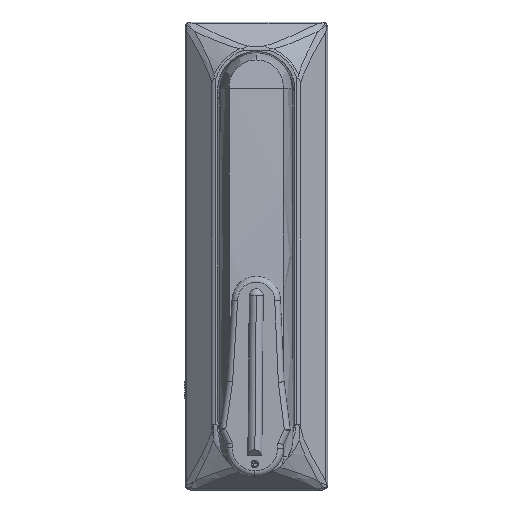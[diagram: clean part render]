
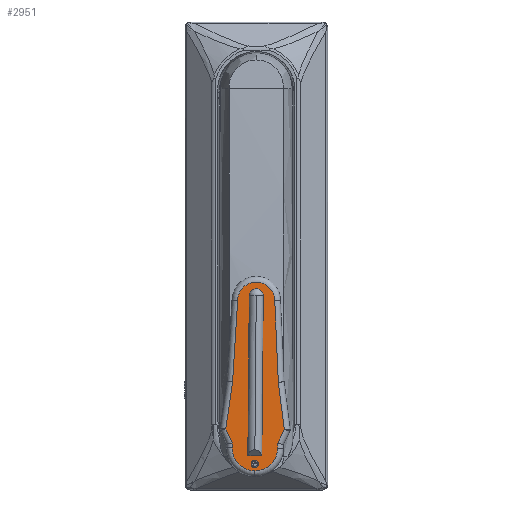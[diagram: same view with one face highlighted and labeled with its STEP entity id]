
A CAD part, left-side view. The second image highlights one B-rep face of the part: STEP entity #2951.
In plain terms, the highlighted planar face has unit normal (-1, 0, 0) as drawn and (0, 0, -1) by its records, which use the part's own axes.
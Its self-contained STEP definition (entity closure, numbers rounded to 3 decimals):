
#2705 = EDGE_CURVE ( 'NONE', #2716, #2717, #15588, .T. ) ;
#2716 = VERTEX_POINT ( 'NONE', #15567 ) ;
#2717 = VERTEX_POINT ( 'NONE', #15580 ) ;
#2725 = EDGE_CURVE ( 'NONE', #2746, #2743, #15624, .T. ) ;
#2729 = VERTEX_POINT ( 'NONE', #15604 ) ;
#2743 = VERTEX_POINT ( 'NONE', #15644 ) ;
#2746 = VERTEX_POINT ( 'NONE', #15653 ) ;
#2785 = VERTEX_POINT ( 'NONE', #15701 ) ;
#2789 = EDGE_CURVE ( 'NONE', #2785, #2729, #15696, .T. ) ;
#2898 = EDGE_LOOP ( 'NONE', ( #2974, #2958, #2962, #2953, #2957, #2942, #2946, #2943, #3012, #2950, #3017 ) ) ;
#2914 = EDGE_CURVE ( 'NONE', #2743, #2945, #15943, .T. ) ;
#2941 = EDGE_CURVE ( 'NONE', #2960, #2746, #16018, .T. ) ;
#2942 = ORIENTED_EDGE ( 'NONE', *, *, #2725, .T. ) ;
#2943 = ORIENTED_EDGE ( 'NONE', *, *, #2947, .T. ) ;
#2944 = VERTEX_POINT ( 'NONE', #16022 ) ;
#2945 = VERTEX_POINT ( 'NONE', #16014 ) ;
#2946 = ORIENTED_EDGE ( 'NONE', *, *, #2914, .T. ) ;
#2947 = EDGE_CURVE ( 'NONE', #2945, #2944, #16019, .T. ) ;
#2948 = EDGE_CURVE ( 'NONE', #2944, #2949, #16023, .T. ) ;
#2949 = VERTEX_POINT ( 'NONE', #16009 ) ;
#2950 = ORIENTED_EDGE ( 'NONE', *, *, #3013, .T. ) ;
#2951 = ADVANCED_FACE ( 'NONE', ( #16021, #16004, #16020 ), #16000, .T. ) ;
#2952 = VERTEX_POINT ( 'NONE', #16013 ) ;
#2953 = ORIENTED_EDGE ( 'NONE', *, *, #3022, .T. ) ;
#2954 = EDGE_CURVE ( 'NONE', #2717, #2716, #15997, .T. ) ;
#2955 = EDGE_CURVE ( 'NONE', #2952, #2975, #16003, .T. ) ;
#2956 = EDGE_CURVE ( 'NONE', #2975, #2983, #16046, .T. ) ;
#2957 = ORIENTED_EDGE ( 'NONE', *, *, #2941, .T. ) ;
#2958 = ORIENTED_EDGE ( 'NONE', *, *, #2956, .T. ) ;
#2959 = EDGE_CURVE ( 'NONE', #2983, #2963, #16039, .T. ) ;
#2960 = VERTEX_POINT ( 'NONE', #16042 ) ;
#2961 = VERTEX_POINT ( 'NONE', #16041 ) ;
#2962 = ORIENTED_EDGE ( 'NONE', *, *, #2959, .T. ) ;
#2963 = VERTEX_POINT ( 'NONE', #16035 ) ;
#2966 = VERTEX_POINT ( 'NONE', #16032 ) ;
#2968 = ORIENTED_EDGE ( 'NONE', *, *, #2954, .F. ) ;
#2970 = VERTEX_POINT ( 'NONE', #16076 ) ;
#2971 = EDGE_CURVE ( 'NONE', #2970, #2966, #16034, .T. ) ;
#2972 = ORIENTED_EDGE ( 'NONE', *, *, #2705, .F. ) ;
#2974 = ORIENTED_EDGE ( 'NONE', *, *, #2955, .T. ) ;
#2975 = VERTEX_POINT ( 'NONE', #16072 ) ;
#2976 = EDGE_LOOP ( 'NONE', ( #2968, #2972 ) ) ;
#2983 = VERTEX_POINT ( 'NONE', #16029 ) ;
#3005 = ORIENTED_EDGE ( 'NONE', *, *, #3020, .T. ) ;
#3011 = EDGE_CURVE ( 'NONE', #2785, #2966, #16140, .T. ) ;
#3012 = ORIENTED_EDGE ( 'NONE', *, *, #2948, .T. ) ;
#3013 = EDGE_CURVE ( 'NONE', #2949, #2961, #16128, .T. ) ;
#3015 = ORIENTED_EDGE ( 'NONE', *, *, #2971, .F. ) ;
#3016 = ORIENTED_EDGE ( 'NONE', *, *, #3011, .T. ) ;
#3017 = ORIENTED_EDGE ( 'NONE', *, *, #3023, .T. ) ;
#3018 = EDGE_LOOP ( 'NONE', ( #3019, #3016, #3015, #3005 ) ) ;
#3019 = ORIENTED_EDGE ( 'NONE', *, *, #2789, .F. ) ;
#3020 = EDGE_CURVE ( 'NONE', #2970, #2729, #16087, .T. ) ;
#3022 = EDGE_CURVE ( 'NONE', #2963, #2960, #16123, .T. ) ;
#3023 = EDGE_CURVE ( 'NONE', #2961, #2952, #16119, .T. ) ;
#15541 = DIRECTION ( 'NONE',  ( 0., 0., -1. ) ) ;
#15567 = CARTESIAN_POINT ( 'NONE',  ( -59.297, 0., -2.4 ) ) ;
#15580 = CARTESIAN_POINT ( 'NONE',  ( -56.703, 0., -2.4 ) ) ;
#15581 = DIRECTION ( 'NONE',  ( -1., 0., 0. ) ) ;
#15588 = CIRCLE ( 'NONE', #15591, 1.297 ) ;
#15590 = CARTESIAN_POINT ( 'NONE',  ( -58., 0., -2.4 ) ) ;
#15591 = AXIS2_PLACEMENT_3D ( 'NONE', #15590, #15541, #15581 ) ;
#15604 = CARTESIAN_POINT ( 'NONE',  ( -55., -2.449, -2.4 ) ) ;
#15606 = DIRECTION ( 'NONE',  ( -1., 0., 0. ) ) ;
#15607 = DIRECTION ( 'NONE',  ( 0., 0., -1. ) ) ;
#15608 = CARTESIAN_POINT ( 'NONE',  ( -52.37, 0., -2.4 ) ) ;
#15609 = AXIS2_PLACEMENT_3D ( 'NONE', #15608, #15607, #15606 ) ;
#15624 = CIRCLE ( 'NONE', #15609, 8. ) ;
#15644 = CARTESIAN_POINT ( 'NONE',  ( -60.37, 0., -2.4 ) ) ;
#15653 = CARTESIAN_POINT ( 'NONE',  ( -52.37, -8., -2.4 ) ) ;
#15695 = CARTESIAN_POINT ( 'NONE',  ( -55., -2.449, -2.4 ) ) ;
#15696 = LINE ( 'NONE', #15695, #15749 ) ;
#15701 = CARTESIAN_POINT ( 'NONE',  ( 1., -2.449, -2.4 ) ) ;
#15748 = DIRECTION ( 'NONE',  ( -1., 0., 0. ) ) ;
#15749 = VECTOR ( 'NONE', #15748, 1000. ) ;
#15929 = DIRECTION ( 'NONE',  ( -1., 0., 0. ) ) ;
#15930 = DIRECTION ( 'NONE',  ( 0., 0., -1. ) ) ;
#15931 = CARTESIAN_POINT ( 'NONE',  ( -52.37, 0., -2.4 ) ) ;
#15935 = AXIS2_PLACEMENT_3D ( 'NONE', #15931, #15930, #15929 ) ;
#15943 = CIRCLE ( 'NONE', #15935, 8. ) ;
#15995 = CARTESIAN_POINT ( 'NONE',  ( -58., 0., -2.4 ) ) ;
#15996 = AXIS2_PLACEMENT_3D ( 'NONE', #15995, #16052, #16051 ) ;
#15997 = CIRCLE ( 'NONE', #15996, 1.297 ) ;
#15998 = DIRECTION ( 'NONE',  ( -1., 0., 0. ) ) ;
#15999 = DIRECTION ( 'NONE',  ( 0., 0., -1. ) ) ;
#16000 = PLANE ( 'NONE',  #16008 ) ;
#16001 = CARTESIAN_POINT ( 'NONE',  ( -0.7, 0., -2.4 ) ) ;
#16003 = CIRCLE ( 'NONE', #16050, 6.5 ) ;
#16004 = FACE_OUTER_BOUND ( 'NONE', #2898, .T. ) ;
#16005 = DIRECTION ( 'NONE',  ( 0.908, 0.418, 0. ) ) ;
#16006 = VECTOR ( 'NONE', #16005, 1000. ) ;
#16007 = CARTESIAN_POINT ( 'NONE',  ( -12.458, 25.56, -2.4 ) ) ;
#16008 = AXIS2_PLACEMENT_3D ( 'NONE', #16001, #15999, #15998 ) ;
#16009 = CARTESIAN_POINT ( 'NONE',  ( -45.762, 10.24, -2.4 ) ) ;
#16010 = DIRECTION ( 'NONE',  ( 1., 0., 0. ) ) ;
#16011 = VECTOR ( 'NONE', #16010, 1000. ) ;
#16012 = CARTESIAN_POINT ( 'NONE',  ( -0.7, 8., -2.4 ) ) ;
#16013 = CARTESIAN_POINT ( 'NONE',  ( -0.749, 6.5, -2.4 ) ) ;
#16014 = CARTESIAN_POINT ( 'NONE',  ( -52.37, 8., -2.4 ) ) ;
#16015 = DIRECTION ( 'NONE',  ( -1., 0., 0. ) ) ;
#16016 = VECTOR ( 'NONE', #16015, 1000. ) ;
#16017 = CARTESIAN_POINT ( 'NONE',  ( -0.7, -8., -2.4 ) ) ;
#16018 = LINE ( 'NONE', #16017, #16016 ) ;
#16019 = LINE ( 'NONE', #16012, #16011 ) ;
#16020 = FACE_BOUND ( 'NONE', #3018, .T. ) ;
#16021 = FACE_BOUND ( 'NONE', #2976, .T. ) ;
#16022 = CARTESIAN_POINT ( 'NONE',  ( -50.632, 8., -2.4 ) ) ;
#16023 = LINE ( 'NONE', #16007, #16006 ) ;
#16029 = CARTESIAN_POINT ( 'NONE',  ( -29.257, -8.007, -2.4 ) ) ;
#16032 = CARTESIAN_POINT ( 'NONE',  ( 1., 2.449, -2.4 ) ) ;
#16034 = LINE ( 'NONE', #16071, #16070 ) ;
#16035 = CARTESIAN_POINT ( 'NONE',  ( -45.762, -10.24, -2.4 ) ) ;
#16036 = DIRECTION ( 'NONE',  ( -0.991, -0.134, 0. ) ) ;
#16037 = VECTOR ( 'NONE', #16036, 1000. ) ;
#16038 = CARTESIAN_POINT ( 'NONE',  ( -0.149, -4.069, -2.4 ) ) ;
#16039 = LINE ( 'NONE', #16038, #16037 ) ;
#16041 = CARTESIAN_POINT ( 'NONE',  ( -29.257, 8.007, -2.4 ) ) ;
#16042 = CARTESIAN_POINT ( 'NONE',  ( -50.632, -8., -2.4 ) ) ;
#16043 = DIRECTION ( 'NONE',  ( -0.999, -0.053, 0. ) ) ;
#16044 = VECTOR ( 'NONE', #16043, 1000. ) ;
#16045 = CARTESIAN_POINT ( 'NONE',  ( -0.357, -6.479, -2.4 ) ) ;
#16046 = LINE ( 'NONE', #16045, #16044 ) ;
#16047 = DIRECTION ( 'NONE',  ( -1., 0., 0. ) ) ;
#16048 = DIRECTION ( 'NONE',  ( 0., 0., -1. ) ) ;
#16049 = CARTESIAN_POINT ( 'NONE',  ( -0.7, 0., -2.4 ) ) ;
#16050 = AXIS2_PLACEMENT_3D ( 'NONE', #16049, #16048, #16047 ) ;
#16051 = DIRECTION ( 'NONE',  ( -1., 0., 0. ) ) ;
#16052 = DIRECTION ( 'NONE',  ( 0., 0., -1. ) ) ;
#16069 = DIRECTION ( 'NONE',  ( 1., 0., 0. ) ) ;
#16070 = VECTOR ( 'NONE', #16069, 1000. ) ;
#16071 = CARTESIAN_POINT ( 'NONE',  ( -55., 2.449, -2.4 ) ) ;
#16072 = CARTESIAN_POINT ( 'NONE',  ( -0.749, -6.5, -2.4 ) ) ;
#16076 = CARTESIAN_POINT ( 'NONE',  ( -55., 2.449, -2.4 ) ) ;
#16086 = CARTESIAN_POINT ( 'NONE',  ( -55., 0., -2.4 ) ) ;
#16087 = LINE ( 'NONE', #16086, #16130 ) ;
#16098 = AXIS2_PLACEMENT_3D ( 'NONE', #16106, #16132, #16131 ) ;
#16106 = CARTESIAN_POINT ( 'NONE',  ( 1., 0., -2.4 ) ) ;
#16115 = DIRECTION ( 'NONE',  ( 0.999, -0.053, 0. ) ) ;
#16116 = VECTOR ( 'NONE', #16115, 1000. ) ;
#16117 = CARTESIAN_POINT ( 'NONE',  ( -0.357, 6.479, -2.4 ) ) ;
#16119 = LINE ( 'NONE', #16117, #16116 ) ;
#16120 = DIRECTION ( 'NONE',  ( -0.908, 0.418, 0. ) ) ;
#16121 = VECTOR ( 'NONE', #16120, 1000. ) ;
#16122 = CARTESIAN_POINT ( 'NONE',  ( -12.458, -25.56, -2.4 ) ) ;
#16123 = LINE ( 'NONE', #16122, #16121 ) ;
#16125 = DIRECTION ( 'NONE',  ( 0.991, -0.134, 0. ) ) ;
#16126 = VECTOR ( 'NONE', #16125, 1000. ) ;
#16127 = CARTESIAN_POINT ( 'NONE',  ( -0.149, 4.069, -2.4 ) ) ;
#16128 = LINE ( 'NONE', #16127, #16126 ) ;
#16129 = DIRECTION ( 'NONE',  ( 0., -1., 0. ) ) ;
#16130 = VECTOR ( 'NONE', #16129, 1000. ) ;
#16131 = DIRECTION ( 'NONE',  ( 0., -1., 0. ) ) ;
#16132 = DIRECTION ( 'NONE',  ( 0., 0., 1. ) ) ;
#16140 = CIRCLE ( 'NONE', #16098, 2.449 ) ;
